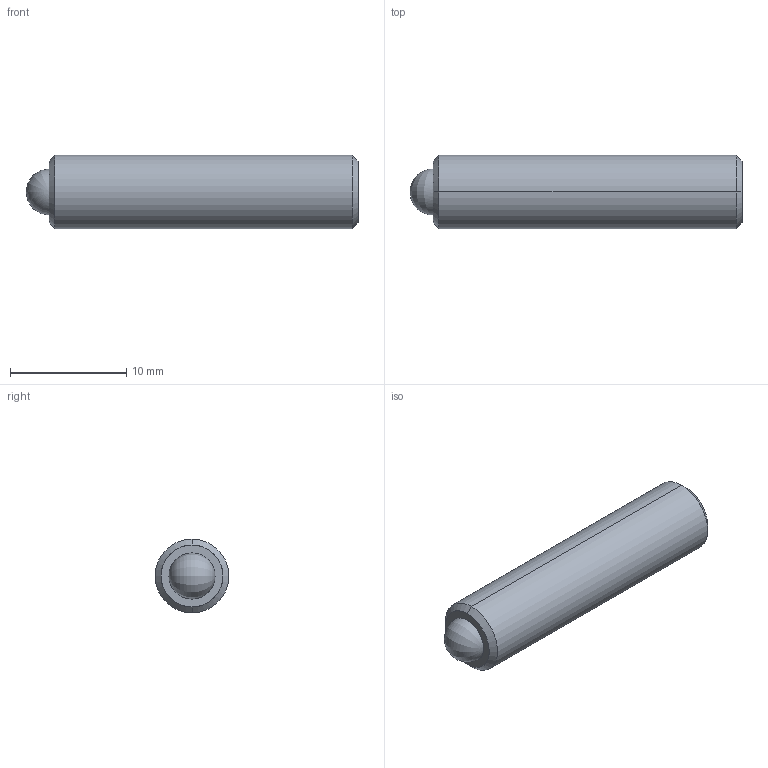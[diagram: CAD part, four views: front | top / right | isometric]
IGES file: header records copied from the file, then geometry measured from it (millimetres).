
Start section: SolidWorks IGES file using analytic representation for surfaces
Global section: file name: C:\Users\workpc\Desktop\KMA Solidworks\TS250-100 Series\TS250-100-1125.IGS; native system: SolidWorks 2013; preprocessor: SolidWorks 2013; author: workpc; date: 130211.181650; units: inch
Bounding box: 28.57 x 6.35 x 6.35 mm (x, y, z)
Surface area: 674.3 mm2 (no closed solid volume)
Topology: 0 solids, 0 shells, 20 faces, 204 edges, 200 vertices
Faces by surface type: revolution 10, bspline 10
